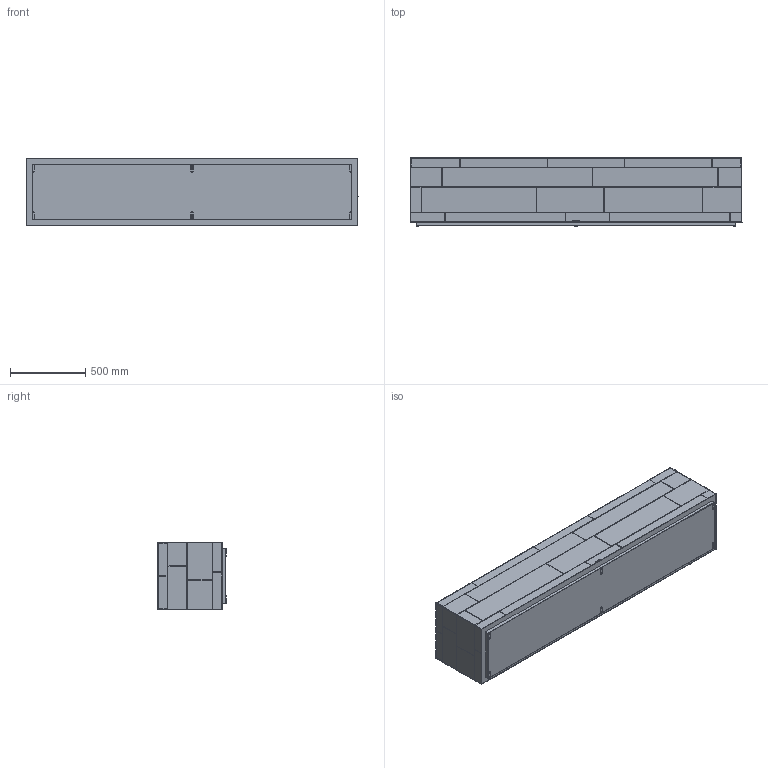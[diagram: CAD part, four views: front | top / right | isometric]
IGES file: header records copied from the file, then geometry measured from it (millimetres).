
Start section: SolidWorks IGES file using analytic representation for surfaces
Global section: file name: \\UTENTI\Dati Utenti\Tecnico\DC\2D - 3D per sito\3D\DeCastelli-3D-Celato floor Console.igs; native system: SolidWorks 2022; preprocessor: SolidWorks 2022; author: maria; date: 240712.143555; units: millimetre
Bounding box: 2200 x 452.7 x 450 mm (x, y, z)
Surface area: 9208034 mm2 (no closed solid volume)
Topology: 0 solids, 0 shells, 421 faces, 4068 edges, 4068 vertices
Faces by surface type: bspline 323, revolution 98
